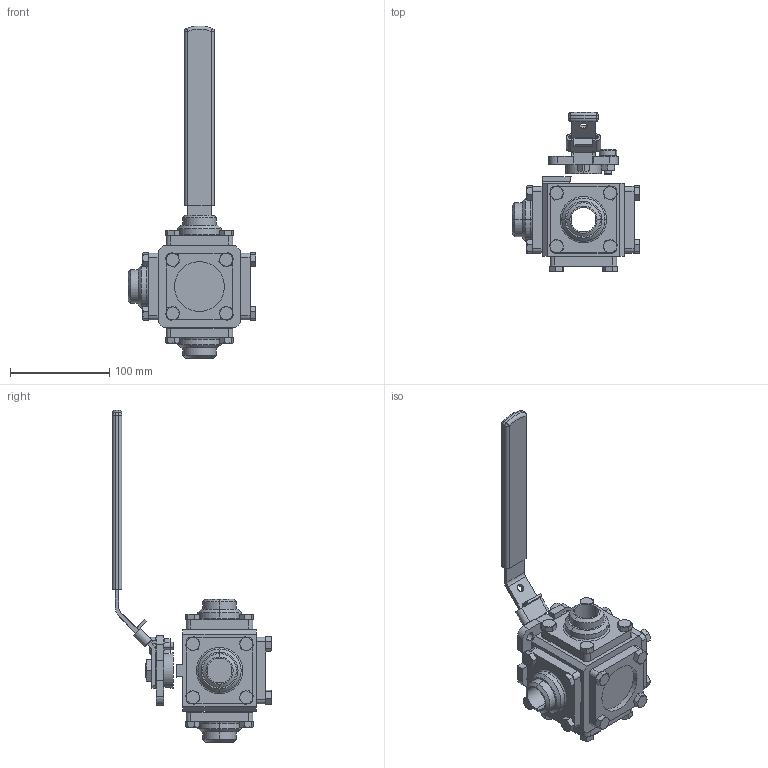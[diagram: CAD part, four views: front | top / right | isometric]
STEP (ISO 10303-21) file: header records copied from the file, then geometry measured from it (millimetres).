
FILE_DESCRIPTION (( 'STEP AP214' ), '1' );
FILE_NAME ('33-BW-0100-XXX.step', '2019-09-30T20:13:55', ( '' ), ( '' ), 'SwSTEP 2.0', 'SolidWorks 2019', '' );
FILE_SCHEMA (( 'AUTOMOTIVE_DESIGN' ));
Length unit declared in the file: inch
Products named in the file (2): 33-BW-0100-XXX
Bounding box: 129 x 160.34 x 334.68 mm (x, y, z)
Surface area: 126669.6 mm2 (no closed solid volume)
Topology: 0 solids, 38 shells, 555 faces, 1487 edges, 984 vertices
Faces by surface type: plane 291, cone 147, cylinder 105, torus 8, sphere 4
Entity records: 25575 total; most frequent: CARTESIAN_POINT 4708, DIRECTION 2828, ORIENTED_EDGE 2623, EDGE_CURVE 1483, AXIS2_PLACEMENT_3D 1068, VERTEX_POINT 984, LINE 692, VECTOR 692
